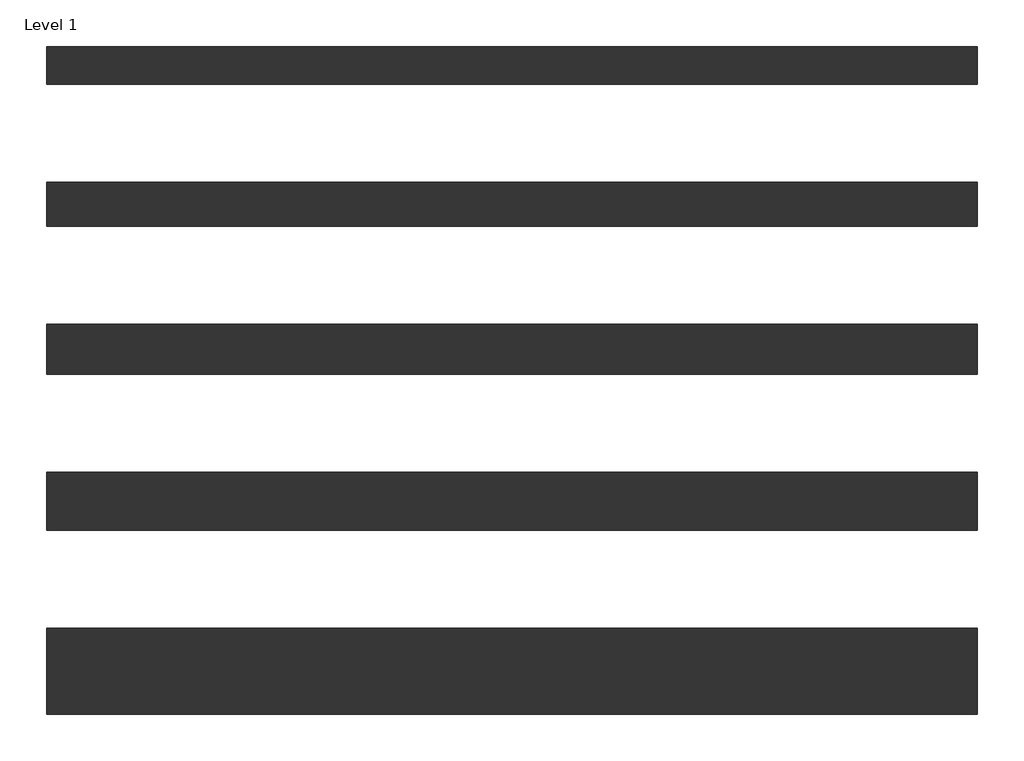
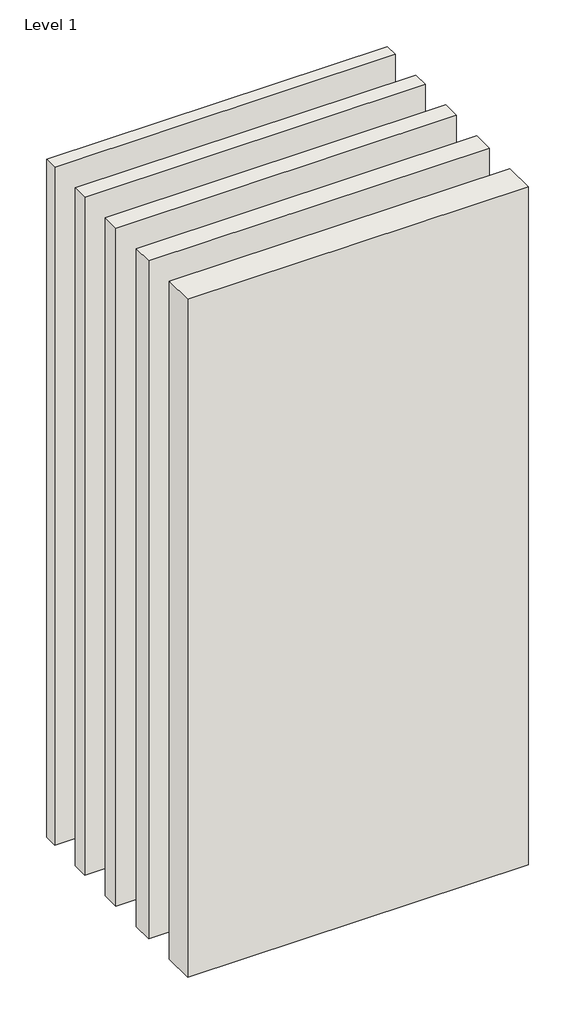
# One storey: 5 walls.
"""IFC4 building model written with IfcOpenShell, lengths in millimetres."""

from ifc_helpers import new_model, si_unit, origin, origin_with_axes, place, context, project, spatial, polyline, outline, extrude, element, save

model = new_model("IFC4")

# Units and contexts
model_context = context("Model", 3, world=origin())
ifc_project = project(units=[si_unit("LENGTHUNIT", "METRE", prefix="MILLI")], contexts=[model_context])

# Site, building, storey
site = spatial("IfcSite", under=ifc_project)
building = spatial("IfcBuilding", under=site)
storey = spatial("IfcBuildingStorey", under=building, Name="Level 1", Elevation=0.0)

# Walls
placement = place(None, origin())
element("IfcWall", 1, ObjectType="Interior-Steel Frame-Single Stud ECO8-CSR3015-102mm", at=placement, inside=storey, context=model_context, shape_type="SweptSolid", body=[
    extrude(outline(polyline([(-304.9930555, -3082.9700538), (1595.0069445, -3082.9700538), (1595.0069445, -3184.9700538), (-304.9930555, -3184.9700538), (-304.9930555, -3082.9700538)])), origin_with_axes(), (0.0, 0.0, 1.0), 4000.0),
])
element("IfcWall", 2, ObjectType="Interior-Steel Frame-Single Stud ECO8-CSR3015-118mm", at=placement, inside=storey, context=model_context, shape_type="SweptSolid", body=[
    extrude(outline(polyline([(-304.9930555, -3384.9700538), (1595.0069445, -3384.9700538), (1595.0069445, -3502.9700538), (-304.9930555, -3502.9700538), (-304.9930555, -3384.9700538)])), origin_with_axes(), (0.0, 0.0, 1.0), 4000.0),
])
element("IfcWall", 3, ObjectType="Interior-Steel Frame-Single Stud ECO8-CSR3015-176mm", at=placement, inside=storey, context=model_context, shape_type="SweptSolid", body=[
    extrude(outline(polyline([(-304.9930555, -3702.9700538), (1595.0069445, -3702.9700538), (1595.0069445, -3878.9700538), (-304.9930555, -3878.9700538), (-304.9930555, -3702.9700538)])), origin_with_axes(), (0.0, 0.0, 1.0), 4000.0),
])
element("IfcWall", 4, ObjectType="Interior-Steel Frame-Single Stud ECO8-CSR3015-77mm", at=placement, inside=storey, context=model_context, shape_type="SweptSolid", body=[
    extrude(outline(polyline([(-304.9930555, -2515.9700538), (1595.0069445, -2515.9700538), (1595.0069445, -2592.9700538), (-304.9930555, -2592.9700538), (-304.9930555, -2515.9700538)])), origin_with_axes(), (0.0, 0.0, 1.0), 4000.0),
])
element("IfcWall", 5, ObjectType="Interior-Steel Frame-Single Stud ECO8-CSR3015-90mm", at=placement, inside=storey, context=model_context, shape_type="SweptSolid", body=[
    extrude(outline(polyline([(-304.9930555, -2792.9700538), (1595.0069445, -2792.9700538), (1595.0069445, -2882.9700538), (-304.9930555, -2882.9700538), (-304.9930555, -2792.9700538)])), origin_with_axes(), (0.0, 0.0, 1.0), 4000.0),
])

save(model, "model.ifc")
